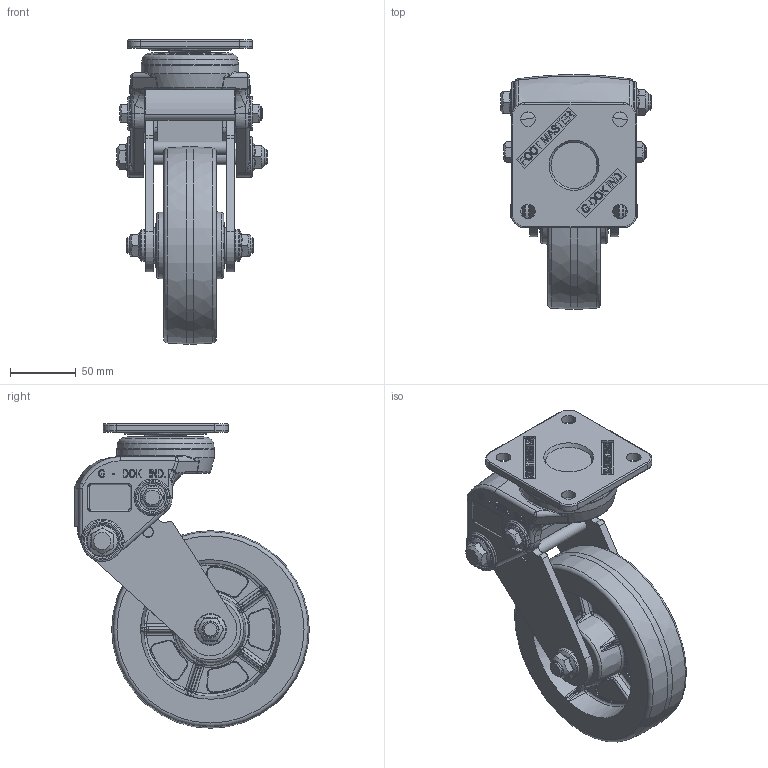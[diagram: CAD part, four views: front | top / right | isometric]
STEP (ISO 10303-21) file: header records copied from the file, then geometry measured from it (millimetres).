
FILE_DESCRIPTION((''),'2;1');
FILE_NAME('C:\Documents and Settings\Administrator\바탕 화면\3D STEP\GDS-SERIES\GDS-150\GDS-150A-RF.stp','2010-12-27T15:35:03',('Administrator'),(''),'Autodesk Inventor 2009','Autodesk Inventor 2009','');
FILE_SCHEMA(('AUTOMOTIVE_DESIGN { 1 0 10303 214 1 1 1 1 }'));
Length unit declared in the file: millimetre
Products named in the file (1): GDS-150A-SF
Bounding box: 114.5 x 178.09 x 231.21 mm (x, y, z)
Volume: 968568.9 mm3; surface area: 219794.4 mm2
Topology: 10 solids, 10 shells, 2642 faces, 7080 edges, 4542 vertices
Faces by surface type: plane 1640, bspline 521, cylinder 265, torus 124, cone 88, sphere 4
Full cylindrical faces by diameter (mm): 7.8 x2, 8.2 x2, 10 x4, 11 x4, 12 x6, 12.2 x4, 13.4 x2, 15 x4, 18 x1, 18.6 x2, 20 x2, 21.667 x4, 24 x4, 26 x2, 27 x4, 28.333 x4, 30 x2, 30.6 x1, 31 x2, 35 x2, 35.02 x2, 39 x1, 41.54 x1, 42.34 x1, 74 x1, 150 x1
Entity records: 103375 total; most frequent: CARTESIAN_POINT 41041, ORIENTED_EDGE 13690, DIRECTION 11434, EDGE_CURVE 6845, VECTOR 4572, LINE 4572, VERTEX_POINT 4493, AXIS2_PLACEMENT_3D 3431
